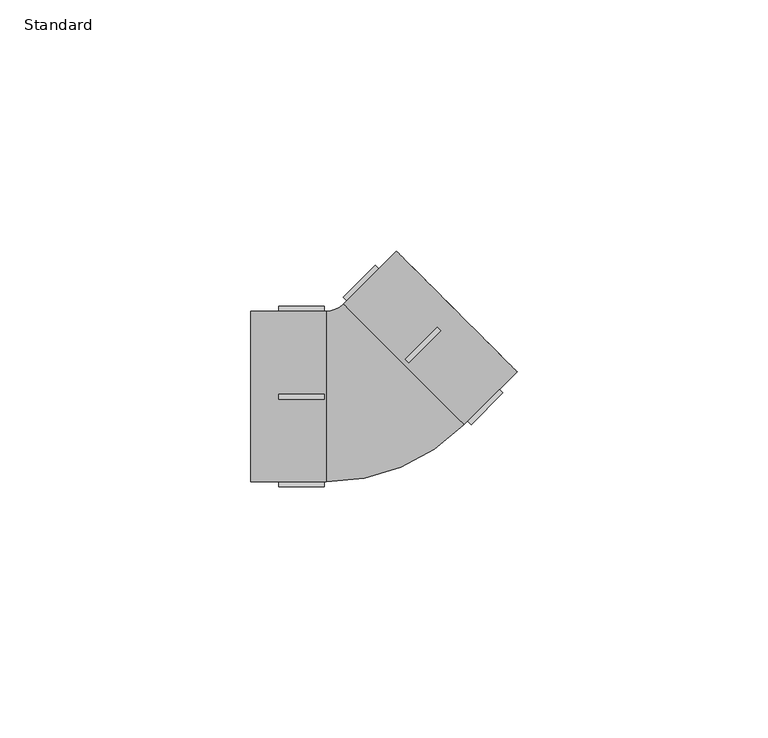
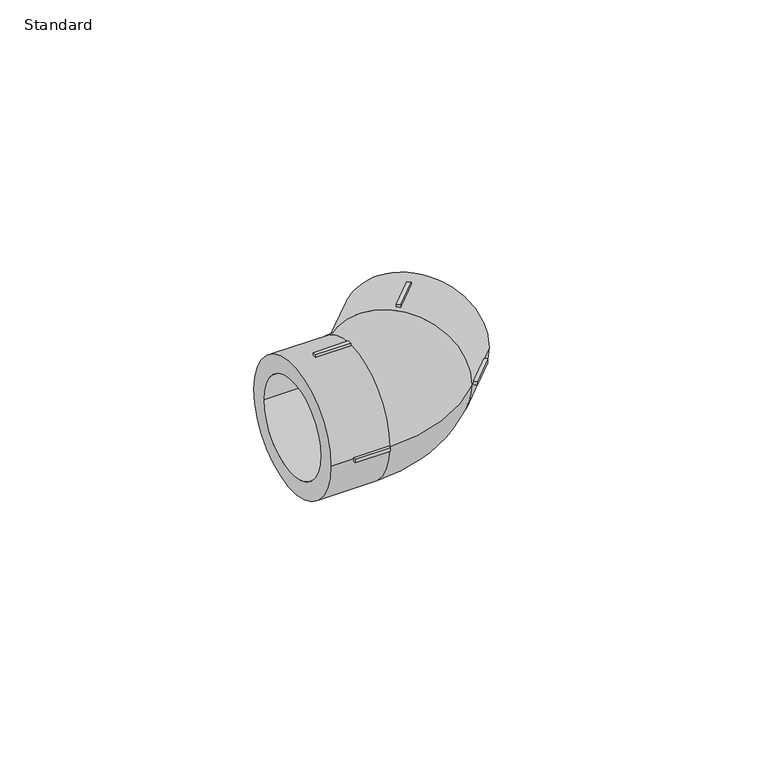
"""IFC4 building model written with IfcOpenShell, lengths in millimetres: pipe fitting geometry, EGB_VASEN_ PPR_Codo 90 WXR200_Codo 45 WXR220  : Standard."""

from ifc_helpers import new_model, si_unit, point, frame, origin, place, context, project, spatial, polyline, circle_curve, ellipse_curve, trimmed, outline, extrude, source, transform, mapped, element, save
from ifc_brep_helpers import plane_surface, cylinder_surface, revolved_surface, advanced_brep


def standard_611862c8(model_context):
    return source(origin(), model_context, "Body", "SolidModel", [
        advanced_brep(
        [(-24.0, -17.0, 0.0), (-24.0, 17.0, 0.0), (-24.0, -12.5, 0.0), (-24.0, 12.5, 0.0), (-9.0416306, -17.0, 0.0), (-9.0416306, 17.0, 0.0), (-9.0416306, -12.5, 0.0), (-9.0416306, 12.5, 0.0), (15.232233, -2.4454365, 0.0), (-2.4454365, 15.232233, 0.0), (-5.627417, 18.4142136, 0.0), (18.4142136, -5.627417, 0.0), (6.3933983, 6.3933983, 17.0), (6.3933983, 6.3933983, -17.0), (28.991378, 4.9497475, 0.0), (4.9497475, 28.991378, 0.0), (25.8093975, 8.131728, 0.0), (8.131728, 25.8093975, 0.0)],
        [
            (0, 1, circle_curve(frame((-24.0, 0.0, 0.0), z_axis=(-1.0, 0.0, 0.0), x_axis=(0.0, 1.0, 0.0)), 17.0)),
            (1, 0, circle_curve(frame((-24.0, 0.0, 0.0), z_axis=(-1.0, 0.0, 0.0), x_axis=(0.0, 1.0, 0.0)), 17.0)),
            (2, 3, circle_curve(frame((-24.0, 0.0, 0.0), z_axis=(1.0, 0.0, 0.0), x_axis=(0.0, 1.0, 0.0)), 12.5)),
            (3, 2, circle_curve(frame((-24.0, 0.0, 0.0), z_axis=(1.0, 0.0, 0.0), x_axis=(0.0, 1.0, 0.0)), 12.5)),
            (0, 4),
            (4, 5, circle_curve(frame((-9.0416306, 0.0, 0.0), z_axis=(-1.0, 0.0, 0.0), x_axis=(0.0, 1.0, 0.0)), 17.0)),
            (5, 1),
            (5, 4, circle_curve(frame((-9.0416306, 0.0, 0.0), z_axis=(-1.0, 0.0, 0.0), x_axis=(0.0, 1.0, 0.0)), 17.0)),
            (2, 6),
            (6, 7, circle_curve(frame((-9.0416306, 0.0, 0.0), z_axis=(1.0, 0.0, 0.0), x_axis=(0.0, 1.0, 0.0)), 12.5)),
            (7, 3),
            (7, 6, circle_curve(frame((-9.0416306, 0.0, 0.0), z_axis=(1.0, 0.0, 0.0), x_axis=(0.0, 1.0, 0.0)), 12.5)),
            (8, 9, circle_curve(frame((6.3933983, 6.3933983, 0.0), z_axis=(0.707106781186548, 0.7071067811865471, 0.0), x_axis=(-0.7071067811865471, 0.707106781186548, 0.0)), 12.5)),
            (9, 8, circle_curve(frame((6.3933983, 6.3933983, 0.0), z_axis=(0.707106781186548, 0.7071067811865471, 0.0), x_axis=(-0.7071067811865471, 0.707106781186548, 0.0)), 12.5)),
            (10, 5, circle_curve(frame((-9.0416306, 21.8284271, 0.0), z_axis=(0.0, 0.0, -1.0), x_axis=(0.0, -1.0, 0.0)), 4.8284271)),
            (4, 11, circle_curve(frame((-9.0416306, 21.8284271, 0.0), z_axis=(0.0, 0.0, 1.0), x_axis=(0.0, -1.0, 0.0)), 38.8284271)),
            (11, 12, circle_curve(frame((6.3933983, 6.3933983, 0.0), z_axis=(-0.7071067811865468, -0.7071067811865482, 0.0), x_axis=(-0.7071067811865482, 0.7071067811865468, 0.0)), 17.0)),
            (12, 10, circle_curve(frame((6.3933983, 6.3933983, 0.0), z_axis=(-0.7071067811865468, -0.7071067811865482, 0.0), x_axis=(-0.7071067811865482, 0.7071067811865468, 0.0)), 17.0)),
            (10, 13, circle_curve(frame((6.3933983, 6.3933983, 0.0), z_axis=(-0.7071067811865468, -0.7071067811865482, 0.0), x_axis=(-0.7071067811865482, 0.7071067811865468, 0.0)), 17.0)),
            (13, 11, circle_curve(frame((6.3933983, 6.3933983, 0.0), z_axis=(-0.707106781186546, -0.707106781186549, 0.0), x_axis=(-0.707106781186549, 0.707106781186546, 0.0)), 17.0)),
            (14, 15, circle_curve(frame((16.9705627, 16.9705627, 0.0), z_axis=(0.707106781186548, 0.7071067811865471, 0.0), x_axis=(-0.7071067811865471, 0.707106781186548, 0.0)), 17.0)),
            (15, 14, circle_curve(frame((16.9705627, 16.9705627, 0.0), z_axis=(0.707106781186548, 0.7071067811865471, 0.0), x_axis=(-0.7071067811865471, 0.707106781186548, 0.0)), 17.0)),
            (16, 17, circle_curve(frame((16.9705627, 16.9705627, 0.0), z_axis=(-0.707106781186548, -0.7071067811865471, 0.0), x_axis=(-0.7071067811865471, 0.707106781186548, 0.0)), 12.5)),
            (17, 16, circle_curve(frame((16.9705627, 16.9705627, 0.0), z_axis=(-0.707106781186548, -0.7071067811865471, 0.0), x_axis=(-0.7071067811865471, 0.707106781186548, 0.0)), 12.5)),
            (15, 10),
            (11, 14),
            (17, 9),
            (8, 16),
        ],
        [
            plane_surface(frame((-24.0, 0.0, 0.0), z_axis=(-1.0, 0.0, 0.0), x_axis=(0.0, 0.0, 1.0))),
            cylinder_surface(frame((-24.0, 0.0, 0.0), z_axis=(-1.0, 0.0, 0.0), x_axis=(0.0, 1.0, 0.0)), 17.0),
            revolved_surface(polyline([(-9.0416306, 12.5, 0.0), (-24.0, 12.5, 0.0)]), (-24.0, 0.0, 0.0), (1.0, 0.0, 0.0)),
            plane_surface(frame((-9.0416306, 0.0, 0.0), z_axis=(-1.0, 0.0, 0.0), x_axis=(0.0, 0.0, 1.0))),
            plane_surface(frame((6.3933983, 6.3933983, 0.0), z_axis=(0.7071067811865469, 0.7071067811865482, 0.0), x_axis=(0.0, 0.0, 1.0))),
            revolved_surface(trimmed(ellipse_curve(frame((-9.0416306, 0.0, 0.0), z_axis=(-1.0, 0.0, 0.0), x_axis=(0.0, 1.0, 0.0)), 17.0, 17.0), [point((-9.0416306, -17.0, 0.0))], [point((-9.0416306, 17.0, 0.0))], True, "CARTESIAN"), (-9.0416306, 21.8284271, 0.0), (0.0, 0.0, 1.0)),
            revolved_surface(trimmed(ellipse_curve(frame((-9.0416306, 0.0, 0.0), z_axis=(-1.0, 0.0, 0.0), x_axis=(0.0, 1.0, 0.0)), 17.0, 17.0), [point((-9.0416306, 17.0, 0.0))], [point((-9.0416306, -17.0, 0.0))], True, "CARTESIAN"), (-9.0416306, 21.8284271, 0.0), (0.0, 0.0, 1.0)),
            plane_surface(frame((16.9705627, 16.9705627, 0.0), z_axis=(0.707106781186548, 0.7071067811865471, 0.0), x_axis=(0.0, 0.0, 1.0))),
            cylinder_surface(frame((6.3933983, 6.3933983, 0.0), z_axis=(-0.707106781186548, -0.7071067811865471, 0.0), x_axis=(-0.7071067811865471, 0.707106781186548, 0.0)), 17.0),
            revolved_surface(polyline([(8.131727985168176, 25.80939751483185, 0.0), (-2.445436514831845, 15.232233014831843, 0.0)]), (6.3933983, 6.3933983, 0.0), (0.707106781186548, 0.7071067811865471, 0.0)),
        ],
        [
            (0, [[1, 2], [3, 4]]),
            (1, [[-1, 5, 6, 7]]),
            (1, [[-2, -7, 8, -5]]),
            (2, [[-3, 9, 10, 11]]),
            (2, [[-4, -11, 12, -9]]),
            (3, [[-10, -12]]),
            (4, [[13, 14]]),
            (5, [[15, -6, 16, 17, 18]]),
            (6, [[-15, 19, 20, -16, -8]]),
            (7, [[21, 22], [23, 24]]),
            (8, [[-22, 25, -18, -17, 26]]),
            (8, [[-21, -26, -20, -19, -25]]),
            (9, [[-24, 27, -13, 28]]),
            (9, [[-23, -28, -14, -27]]),
        ],
    ),
        extrude(outline(polyline([(7.4540585, 6.7469517), (6.7469517, 7.4540585), (13.1109127, 13.8180195), (13.8180195, 13.1109127), (7.4540585, 6.7469517)])), frame((0.0, 0.0, 16.0), z_axis=(0.0, 0.0, 1.0), x_axis=(1.0, 0.0, 0.0)), (0.0, 0.0, 1.0), 2.0),
        extrude(outline(polyline([(-4.2132034, 18.4142136), (-5.627417, 19.8284271), (0.736544, 26.1923882), (2.1507576, 24.7781746), (-4.2132034, 18.4142136)])), frame((0.0, 0.0, -0.5), z_axis=(0.0, 0.0, 1.0), x_axis=(1.0, 0.0, 0.0)), (0.0, 0.0, 1.0), 1.0),
        extrude(outline(polyline([(19.8284271, -5.627417), (18.4142136, -4.2132034), (24.7781746, 2.1507576), (26.1923882, 0.736544), (19.8284271, -5.627417)])), frame((0.0, 0.0, -0.5), z_axis=(0.0, 0.0, 1.0), x_axis=(1.0, 0.0, 0.0)), (0.0, 0.0, 1.0), 1.0),
        extrude(outline(polyline([(7.4540585, 6.7469517), (6.7469517, 7.4540585), (13.1109127, 13.8180195), (13.8180195, 13.1109127), (7.4540585, 6.7469517)])), frame((0.0, 0.0, -18.0), z_axis=(0.0, 0.0, 1.0), x_axis=(1.0, 0.0, 0.0)), (0.0, 0.0, 1.0), 2.0),
        extrude(outline(polyline([(-9.4416306, 0.5), (-9.4416306, -0.5), (-18.4416306, -0.5), (-18.4416306, 0.5), (-9.4416306, 0.5)])), frame((0.0, 0.0, 16.0), z_axis=(0.0, 0.0, 1.0), x_axis=(1.0, 0.0, 0.0)), (0.0, 0.0, 1.0), 2.0),
        extrude(outline(polyline([(-9.4416306, 0.5), (-9.4416306, -0.5), (-18.4416306, -0.5), (-18.4416306, 0.5), (-9.4416306, 0.5)])), frame((0.0, 0.0, -18.0), z_axis=(0.0, 0.0, 1.0), x_axis=(1.0, 0.0, 0.0)), (0.0, 0.0, 1.0), 2.0),
        extrude(outline(polyline([(-9.4416306, 18.0), (-9.4416306, 16.0), (-18.4416306, 16.0), (-18.4416306, 18.0), (-9.4416306, 18.0)])), frame((0.0, 0.0, -0.5), z_axis=(0.0, 0.0, 1.0), x_axis=(1.0, 0.0, 0.0)), (0.0, 0.0, 1.0), 1.0),
        extrude(outline(polyline([(-9.4416306, -16.0), (-9.4416306, -18.0), (-18.4416306, -18.0), (-18.4416306, -16.0), (-9.4416306, -16.0)])), frame((0.0, 0.0, -0.5), z_axis=(0.0, 0.0, 1.0), x_axis=(1.0, 0.0, 0.0)), (0.0, 0.0, 1.0), 1.0),
    ])


if __name__ == "__main__":
    model = new_model("IFC4")
    model_context = context("Model", 3, world=origin())
    ifc_project = project(units=[si_unit("LENGTHUNIT", "METRE", prefix="MILLI")], contexts=[model_context])
    site = spatial("IfcSite", under=ifc_project)
    building = spatial("IfcBuilding", under=site)
    placement = place(None, origin())
    standard_shape = standard_611862c8(model_context)
    element("IfcPipeFitting", 1, ObjectType="EGB_VASEN_ PPR_Codo 90 WXR200_Codo 45 WXR220  : Standard", at=placement, inside=building, context=model_context, shape_type="MappedRepresentation", body=[
        mapped(standard_shape, transform((0.0, 0.0, 0.0), x_axis=(1.0, 0.0, 0.0), y_axis=(0.0, 1.0, 0.0), z_axis=(0.0, 0.0, 1.0))),
    ])
    save(model, "model.ifc")
